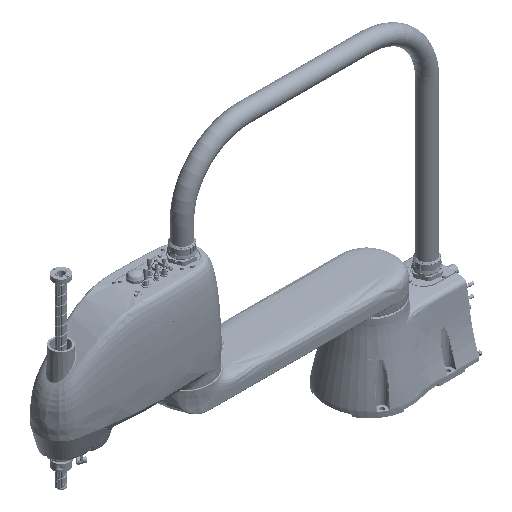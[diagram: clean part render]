
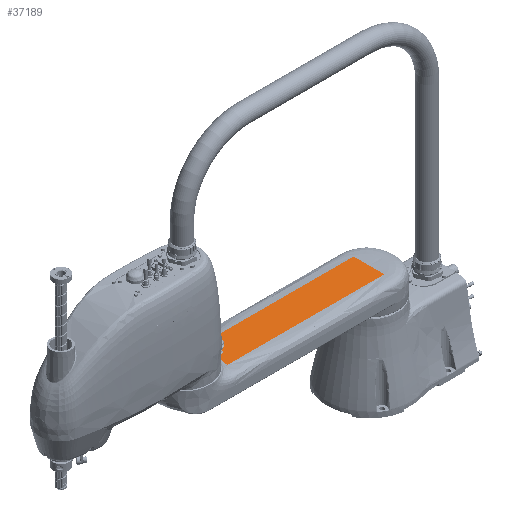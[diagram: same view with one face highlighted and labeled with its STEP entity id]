
A CAD part, isometric view. The second image highlights one B-rep face of the part: STEP entity #37189.
In plain terms, the highlighted planar face has unit normal (0, 0, 1).
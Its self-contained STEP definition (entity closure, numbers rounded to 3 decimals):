
#26566=B_SPLINE_CURVE_WITH_KNOTS('',3,(#169789,#169790,#169791,#169792),
 .UNSPECIFIED.,.F.,.F.,(4,4),(0.,1.),.UNSPECIFIED.);
#27016=B_SPLINE_CURVE_WITH_KNOTS('',3,(#182572,#182573,#182574,#182575),
 .UNSPECIFIED.,.F.,.F.,(4,4),(0.,1.),.UNSPECIFIED.);
#32808=CIRCLE('',#112141,7.108);
#32809=CIRCLE('',#112142,6.108);
#32810=CIRCLE('',#112143,7.108);
#37189=ADVANCED_FACE('',(#43957),#41230,.T.);
#41230=PLANE('',#112144);
#43957=FACE_OUTER_BOUND('',#49426,.T.);
#49426=EDGE_LOOP('',(#72065,#72066,#72067,#72068,#72069,#72070,#72071,#72072,
#72073,#72074,#72075));
#54959=LINE('',#186606,#59164);
#54960=LINE('',#186816,#59165);
#54961=LINE('',#187216,#59166);
#54962=LINE('',#187220,#59167);
#54963=LINE('',#187223,#59168);
#54964=LINE('',#187225,#59169);
#59164=VECTOR('',#126362,1.);
#59165=VECTOR('',#126363,1.);
#59166=VECTOR('',#126366,1.);
#59167=VECTOR('',#126369,1.);
#59168=VECTOR('',#126372,1.);
#59169=VECTOR('',#126373,1.);
#72065=ORIENTED_EDGE('',*,*,#100235,.T.);
#72066=ORIENTED_EDGE('',*,*,#101091,.T.);
#72067=ORIENTED_EDGE('',*,*,#101092,.T.);
#72068=ORIENTED_EDGE('',*,*,#101093,.T.);
#72069=ORIENTED_EDGE('',*,*,#101094,.T.);
#72070=ORIENTED_EDGE('',*,*,#101095,.T.);
#72071=ORIENTED_EDGE('',*,*,#101043,.T.);
#72072=ORIENTED_EDGE('',*,*,#101083,.F.);
#72073=ORIENTED_EDGE('',*,*,#101096,.T.);
#72074=ORIENTED_EDGE('',*,*,#101097,.T.);
#72075=ORIENTED_EDGE('',*,*,#101085,.T.);
#90322=VERTEX_POINT('',#169788);
#90323=VERTEX_POINT('',#169793);
#90348=VERTEX_POINT('',#172867);
#90350=VERTEX_POINT('',#173620);
#91052=VERTEX_POINT('',#181321);
#91059=VERTEX_POINT('',#182576);
#91082=VERTEX_POINT('',#187215);
#91083=VERTEX_POINT('',#187217);
#91084=VERTEX_POINT('',#187219);
#91085=VERTEX_POINT('',#187221);
#91086=VERTEX_POINT('',#187224);
#100235=EDGE_CURVE('',#90323,#90322,#26566,.T.);
#101043=EDGE_CURVE('',#91059,#91052,#27016,.T.);
#101083=EDGE_CURVE('',#90348,#91052,#54959,.T.);
#101085=EDGE_CURVE('',#90350,#90323,#54960,.T.);
#101091=EDGE_CURVE('',#90322,#91082,#32808,.T.);
#101092=EDGE_CURVE('',#91082,#91083,#54961,.T.);
#101093=EDGE_CURVE('',#91083,#91084,#32809,.T.);
#101094=EDGE_CURVE('',#91084,#91085,#54962,.T.);
#101095=EDGE_CURVE('',#91085,#91059,#32810,.T.);
#101096=EDGE_CURVE('',#90348,#91086,#54963,.T.);
#101097=EDGE_CURVE('',#91086,#90350,#54964,.T.);
#112141=AXIS2_PLACEMENT_3D('',#187214,#126364,#126365);
#112142=AXIS2_PLACEMENT_3D('',#187218,#126367,#126368);
#112143=AXIS2_PLACEMENT_3D('',#187222,#126370,#126371);
#112144=AXIS2_PLACEMENT_3D('',#187226,#126374,#126375);
#126362=DIRECTION('',(-1.,0.,0.));
#126363=DIRECTION('',(-1.,0.,0.));
#126364=DIRECTION('',(0.,0.,-1.));
#126365=DIRECTION('',(1.,0.,0.));
#126366=DIRECTION('',(0.99,-0.143,0.));
#126367=DIRECTION('',(0.,0.,-1.));
#126368=DIRECTION('',(1.,0.,0.));
#126369=DIRECTION('',(-0.99,-0.143,0.));
#126370=DIRECTION('',(0.,0.,-1.));
#126371=DIRECTION('',(1.,0.,0.));
#126372=DIRECTION('',(0.,1.,0.));
#126373=DIRECTION('',(0.,1.,0.));
#126374=DIRECTION('',(0.,0.,1.));
#126375=DIRECTION('',(0.,1.,0.));
#169788=CARTESIAN_POINT('',(-353.084,4.967,51.));
#169789=CARTESIAN_POINT('',(-357.257,35.,51.));
#169790=CARTESIAN_POINT('',(-354.827,25.155,51.));
#169791=CARTESIAN_POINT('',(-353.429,15.086,51.));
#169792=CARTESIAN_POINT('',(-353.084,4.967,51.));
#169793=CARTESIAN_POINT('',(-357.257,35.,51.));
#172867=CARTESIAN_POINT('',(-0.082,-35.,51.));
#173620=CARTESIAN_POINT('',(-0.082,35.,51.));
#181321=CARTESIAN_POINT('',(-357.257,-35.,51.));
#182572=CARTESIAN_POINT('',(-353.084,-4.967,51.));
#182573=CARTESIAN_POINT('',(-353.429,-15.086,51.));
#182574=CARTESIAN_POINT('',(-354.826,-25.154,51.));
#182575=CARTESIAN_POINT('',(-357.257,-35.,51.));
#182576=CARTESIAN_POINT('',(-353.084,-4.967,51.));
#186606=CARTESIAN_POINT('',(-212.541,-35.,51.));
#186816=CARTESIAN_POINT('',(-212.541,35.,51.));
#187214=CARTESIAN_POINT('',(-348.,0.,51.));
#187215=CARTESIAN_POINT('',(-346.985,7.035,51.));
#187216=CARTESIAN_POINT('',(-312.209,2.016,51.));
#187217=CARTESIAN_POINT('',(-340.127,6.045,51.));
#187218=CARTESIAN_POINT('',(-341.,0.,51.));
#187219=CARTESIAN_POINT('',(-340.127,-6.045,51.));
#187220=CARTESIAN_POINT('',(-312.209,-2.016,51.));
#187221=CARTESIAN_POINT('',(-346.985,-7.035,51.));
#187222=CARTESIAN_POINT('',(-348.,0.,51.));
#187223=CARTESIAN_POINT('',(-0.082,0.,51.));
#187224=CARTESIAN_POINT('',(-0.082,0.,51.));
#187225=CARTESIAN_POINT('',(-0.082,0.,51.));
#187226=CARTESIAN_POINT('',(-212.5,0.,51.));
